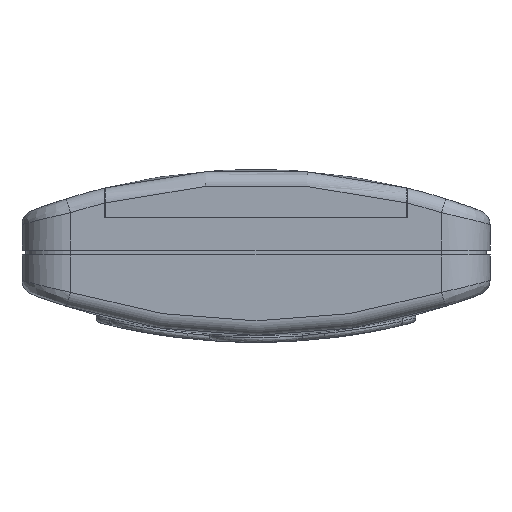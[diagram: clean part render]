
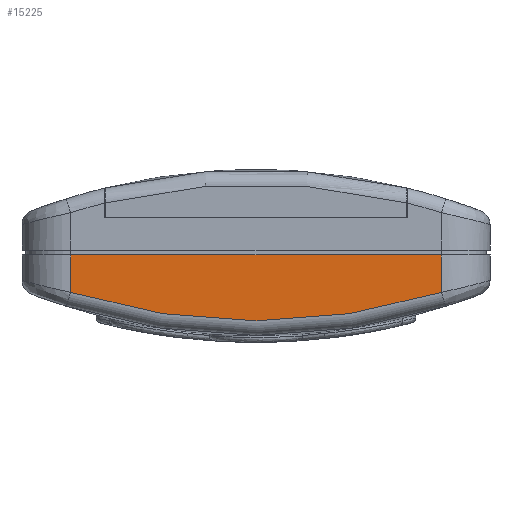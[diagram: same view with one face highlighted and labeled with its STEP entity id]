
A CAD part, front view. The second image highlights one B-rep face of the part: STEP entity #15225.
In plain terms, the highlighted planar face has unit normal (0, -1, 0).
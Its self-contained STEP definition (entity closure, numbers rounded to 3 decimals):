
#866=DIRECTION('',(1.,0.,0.));
#867=VECTOR('',#866,38.);
#868=CARTESIAN_POINT('',(-19.,-92.5,-0.25));
#869=LINE('',#868,#867);
#870=DIRECTION('',(0.,0.,-1.));
#871=VECTOR('',#870,3.837);
#872=CARTESIAN_POINT('',(19.,-92.5,-0.25));
#873=LINE('',#872,#871);
#874=CARTESIAN_POINT('',(0.,-92.5,56.399));
#875=DIRECTION('',(0.,1.,0.));
#876=DIRECTION('',(0.3,0.,-0.954));
#877=AXIS2_PLACEMENT_3D('',#874,#875,#876);
#894=DIRECTION('',(0.,0.,-1.));
#895=VECTOR('',#894,3.837);
#896=CARTESIAN_POINT('',(-19.,-92.5,-0.25));
#897=LINE('',#896,#895);
#12881=CARTESIAN_POINT('',(19.,-92.5,-4.087));
#12882=VERTEX_POINT('',#12881);
#12885=CARTESIAN_POINT('',(19.,-92.5,-0.25));
#12886=VERTEX_POINT('',#12885);
#12887=CARTESIAN_POINT('',(-19.,-92.5,-0.25));
#12888=VERTEX_POINT('',#12887);
#12915=CARTESIAN_POINT('',(-19.,-92.5,-4.087));
#12916=VERTEX_POINT('',#12915);
#15212=CARTESIAN_POINT('',(0.,-92.5,-3.631));
#15213=DIRECTION('',(0.,1.,0.));
#15214=DIRECTION('',(1.,0.,0.));
#15215=AXIS2_PLACEMENT_3D('',#15212,#15213,#15214);
#15216=PLANE('',#15215);
#15217=ORIENTED_EDGE('',*,*,#15169,.T.);
#15218=ORIENTED_EDGE('',*,*,#15152,.T.);
#15220=ORIENTED_EDGE('',*,*,#15219,.T.);
#15222=ORIENTED_EDGE('',*,*,#15221,.F.);
#15223=EDGE_LOOP('',(#15217,#15218,#15220,#15222));
#15224=FACE_OUTER_BOUND('',#15223,.F.);
#15225=ADVANCED_FACE('',(#15224),#15216,.F.);
#878=CIRCLE('',#877,63.4);
#15152=EDGE_CURVE('',#12886,#12882,#873,.T.);
#15169=EDGE_CURVE('',#12888,#12886,#869,.T.);
#15219=EDGE_CURVE('',#12882,#12916,#878,.T.);
#15221=EDGE_CURVE('',#12888,#12916,#897,.T.);
